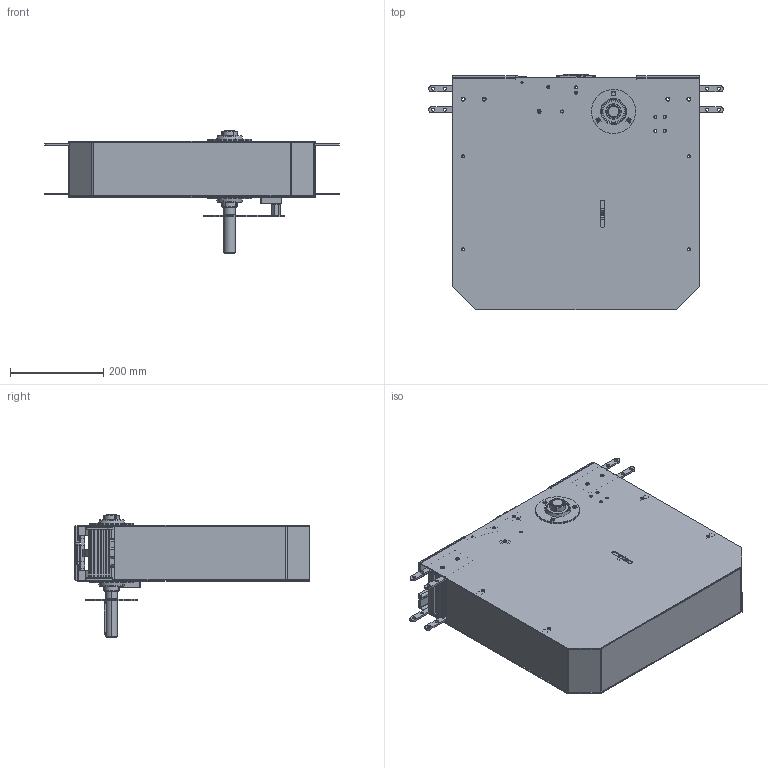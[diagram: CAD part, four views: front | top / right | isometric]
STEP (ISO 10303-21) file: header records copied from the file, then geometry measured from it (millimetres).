
FILE_DESCRIPTION (( 'STEP AP203' ), '1' );
FILE_NAME ('2000.450.649.STEP', '2018-03-12T09:00:36', ( '' ), ( '' ), 'SwSTEP 2.0', 'SolidWorks 2016', '' );
FILE_SCHEMA (( 'CONFIG_CONTROL_DESIGN' ));
Length unit declared in the file: millimetre
Products named in the file (27): 084.808.004; VITI TSEI UNI 5933_M6x20 UNI 5933; 2000.450.002; CHIAVETTE_A 8x7x70 UNI 6604-69; CHIAVETTE_A 8x7x50 UNI 6604-69; 084.802.027; 2000.450.603; 2000.450.604; 2000.450.607; 2000.450.602; VITI TSEI UNI 5933_M8x20 UNI 5933; 2000.325.608; 2000.450.601_Default<A macchina>; 2000.450.005_Default<A macchina>; 2000.450.201-1; Rexnord-S0672-S0672-687432_687432; 2000.450.101-1; Rexnord-S0672-S0672-687432; 2000.325.602; 2000.001.903; 2000.325.601; 2000.450.605; SBPF205; 2000.450.649; 2000.001.010-1; RUOTE DI TRAINO NS880_NS880T12R25; 2000.001.402
Assembly tree (46 placements, depth 3):
  2000.450.649
    2000.001.903
    2000.450.101-1
    084.802.027
    2000.450.201-1  x2
    SBPF205  x2
    RUOTE DI TRAINO NS880_NS880T12R25
    084.808.004
    2000.001.010-1
    2000.450.603
    2000.325.608
    2000.001.402  x4
    2000.450.604
    2000.450.002  x2
    2000.325.601  x4
    2000.325.602  x2
    2000.450.601_Default<A macchina>  x4
    2000.450.005_Default<A macchina>  x2
    Rexnord-S0672-S0672-687432  x2
      Rexnord-S0672-S0672-687432_687432
    CHIAVETTE_A 8x7x70 UNI 6604-69
    CHIAVETTE_A 8x7x50 UNI 6604-69
    2000.450.605  x4
    VITI TSEI UNI 5933_M8x20 UNI 5933  x2
    VITI TSEI UNI 5933_M6x20 UNI 5933
    2000.450.602
    2000.450.607  x2
Bounding box: 633 x 506.5 x 263.5 mm (x, y, z)
Volume: 4460629.9 mm3; surface area: 2191813.8 mm2
Topology: 41 solids, 107 shells, 3323 faces, 8512 edges, 5341 vertices
Faces by surface type: cylinder 1293, plane 1046, torus 582, cone 262, bspline 78, sphere 62
Entity records: 66652 total; most frequent: CARTESIAN_POINT 15416, DIRECTION 10760, ORIENTED_EDGE 9405, EDGE_CURVE 4862, AXIS2_PLACEMENT_3D 4289, VERTEX_POINT 3021, CIRCLE 2317, EDGE_LOOP 2232
